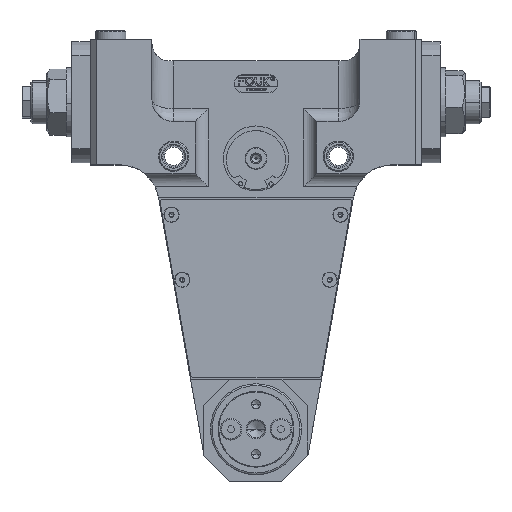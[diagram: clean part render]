
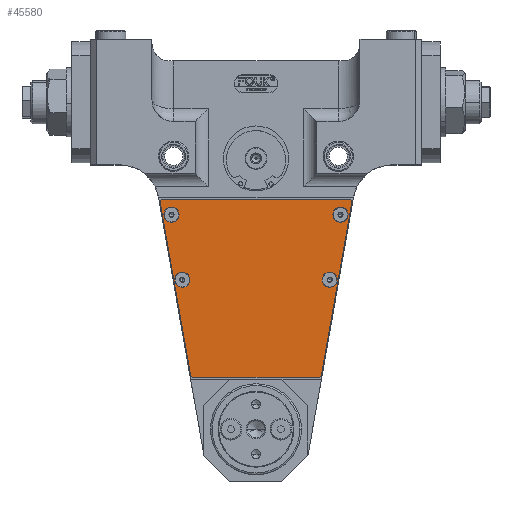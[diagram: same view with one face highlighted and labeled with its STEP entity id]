
A CAD part, top view. The second image highlights one B-rep face of the part: STEP entity #45580.
In plain terms, the highlighted planar face has unit normal (0, 0, 1) as drawn and (0, 1, 0) by its records, which use the part's own axes.
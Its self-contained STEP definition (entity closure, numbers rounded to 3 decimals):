
#167 = DIRECTION ( 'NONE',  ( 0., 0., 1. ) ) ;
#439 = ORIENTED_EDGE ( 'NONE', *, *, #52332, .F. ) ;
#575 = CARTESIAN_POINT ( 'NONE',  ( -34., 2., -45. ) ) ;
#619 = ORIENTED_EDGE ( 'NONE', *, *, #24510, .T. ) ;
#735 = VERTEX_POINT ( 'NONE', #8383 ) ;
#935 = EDGE_LOOP ( 'NONE', ( #10785, #29085 ) ) ;
#1108 = AXIS2_PLACEMENT_3D ( 'NONE', #12830, #38001, #5285 ) ;
#1535 = ORIENTED_EDGE ( 'NONE', *, *, #1803, .T. ) ;
#1704 = AXIS2_PLACEMENT_3D ( 'NONE', #9349, #17596, #21735 ) ;
#1803 = EDGE_CURVE ( 'NONE', #21991, #28406, #28995, .T. ) ;
#2106 = CARTESIAN_POINT ( 'NONE',  ( 34., 2., -45. ) ) ;
#3091 = DIRECTION ( 'NONE',  ( 0., 0., 1. ) ) ;
#3314 = EDGE_LOOP ( 'NONE', ( #18364, #38629 ) ) ;
#3346 = CARTESIAN_POINT ( 'NONE',  ( -34., 2., -48.5 ) ) ;
#3406 = LINE ( 'NONE', #27669, #4695 ) ;
#3735 = AXIS2_PLACEMENT_3D ( 'NONE', #31132, #27204, #35316 ) ;
#4502 = EDGE_CURVE ( 'NONE', #30340, #735, #24314, .T. ) ;
#4520 = CARTESIAN_POINT ( 'NONE',  ( -43.267, 2., -82. ) ) ;
#4695 = VECTOR ( 'NONE', #52191, 1000. ) ;
#5285 = DIRECTION ( 'NONE',  ( 0., 0., 1. ) ) ;
#5320 = EDGE_CURVE ( 'NONE', #12734, #7144, #25579, .T. ) ;
#5488 = CARTESIAN_POINT ( 'NONE',  ( 34., 2., -45. ) ) ;
#5729 = CARTESIAN_POINT ( 'NONE',  ( 44.459, 2., -82. ) ) ;
#5777 = EDGE_CURVE ( 'NONE', #43145, #21991, #46017, .T. ) ;
#5926 = EDGE_CURVE ( 'NONE', #45802, #41325, #35157, .T. ) ;
#5991 = LINE ( 'NONE', #37483, #17568 ) ;
#6210 = FACE_BOUND ( 'NONE', #21456, .T. ) ;
#6222 = ORIENTED_EDGE ( 'NONE', *, *, #23735, .T. ) ;
#7144 = VERTEX_POINT ( 'NONE', #52548 ) ;
#7484 = FACE_BOUND ( 'NONE', #53047, .T. ) ;
#8217 = ORIENTED_EDGE ( 'NONE', *, *, #28347, .T. ) ;
#8274 = DIRECTION ( 'NONE',  ( 0., 0., 1. ) ) ;
#8290 = CIRCLE ( 'NONE', #48245, 3.5 ) ;
#8383 = CARTESIAN_POINT ( 'NONE',  ( -39., 2., -78.5 ) ) ;
#9135 = VERTEX_POINT ( 'NONE', #39538 ) ;
#9252 = AXIS2_PLACEMENT_3D ( 'NONE', #19428, #52260, #3091 ) ;
#9349 = CARTESIAN_POINT ( 'NONE',  ( -34., 2., -45. ) ) ;
#9809 = DIRECTION ( 'NONE',  ( 0.174, 0., -0.985 ) ) ;
#10071 = AXIS2_PLACEMENT_3D ( 'NONE', #5488, #21295, #41961 ) ;
#10119 = DIRECTION ( 'NONE',  ( 0., 0., 1. ) ) ;
#10785 = ORIENTED_EDGE ( 'NONE', *, *, #5320, .F. ) ;
#11189 = CARTESIAN_POINT ( 'NONE',  ( -44.252, 2., -80.826 ) ) ;
#12734 = VERTEX_POINT ( 'NONE', #51132 ) ;
#12830 = CARTESIAN_POINT ( 'NONE',  ( 0., 2., 0. ) ) ;
#13118 = DIRECTION ( 'NONE',  ( 0.174, 0., 0.985 ) ) ;
#13249 = FACE_BOUND ( 'NONE', #3314, .T. ) ;
#14155 = VECTOR ( 'NONE', #13118, 1000. ) ;
#14937 = CARTESIAN_POINT ( 'NONE',  ( -34., 2., -41.5 ) ) ;
#15094 = CARTESIAN_POINT ( 'NONE',  ( 34., 2., -48.5 ) ) ;
#15291 = DIRECTION ( 'NONE',  ( 0., 0., 1. ) ) ;
#16209 = ORIENTED_EDGE ( 'NONE', *, *, #5926, .F. ) ;
#16309 = DIRECTION ( 'NONE',  ( 0., 1., 0. ) ) ;
#16415 = CIRCLE ( 'NONE', #51065, 1. ) ;
#16457 = VERTEX_POINT ( 'NONE', #26619 ) ;
#16638 = CARTESIAN_POINT ( 'NONE',  ( 44.252, 2., -80.826 ) ) ;
#16675 = CARTESIAN_POINT ( 'NONE',  ( -30.146, 2., -0.826 ) ) ;
#16835 = EDGE_CURVE ( 'NONE', #9135, #16457, #3406, .T. ) ;
#17116 = FACE_OUTER_BOUND ( 'NONE', #38415, .T. ) ;
#17568 = VECTOR ( 'NONE', #9809, 1000. ) ;
#17596 = DIRECTION ( 'NONE',  ( 0., 1., 0. ) ) ;
#18262 = CARTESIAN_POINT ( 'NONE',  ( 39., 2., -75. ) ) ;
#18364 = ORIENTED_EDGE ( 'NONE', *, *, #35426, .F. ) ;
#19229 = ORIENTED_EDGE ( 'NONE', *, *, #5777, .T. ) ;
#19428 = CARTESIAN_POINT ( 'NONE',  ( -43.267, 2., -81. ) ) ;
#19518 = CARTESIAN_POINT ( 'NONE',  ( 30.146, 2., -0.826 ) ) ;
#20094 = AXIS2_PLACEMENT_3D ( 'NONE', #20796, #16309, #167 ) ;
#20182 = ORIENTED_EDGE ( 'NONE', *, *, #48091, .F. ) ;
#20796 = CARTESIAN_POINT ( 'NONE',  ( -29.161, 2., -1. ) ) ;
#21295 = DIRECTION ( 'NONE',  ( 0., 1., 0. ) ) ;
#21456 = EDGE_LOOP ( 'NONE', ( #27465, #20182 ) ) ;
#21521 = AXIS2_PLACEMENT_3D ( 'NONE', #575, #28796, #8274 ) ;
#21735 = DIRECTION ( 'NONE',  ( 0., 0., 1. ) ) ;
#21969 = DIRECTION ( 'NONE',  ( 0., 1., 0. ) ) ;
#21991 = VERTEX_POINT ( 'NONE', #11189 ) ;
#22403 = DIRECTION ( 'NONE',  ( 0., 0., 1. ) ) ;
#22695 = DIRECTION ( 'NONE',  ( 0., 1., 0. ) ) ;
#23239 = AXIS2_PLACEMENT_3D ( 'NONE', #2106, #47654, #22403 ) ;
#23735 = EDGE_CURVE ( 'NONE', #16457, #32662, #39636, .T. ) ;
#23942 = EDGE_CURVE ( 'NONE', #24666, #40072, #50518, .T. ) ;
#24283 = CIRCLE ( 'NONE', #10071, 3.5 ) ;
#24314 = CIRCLE ( 'NONE', #32640, 3.5 ) ;
#24510 = EDGE_CURVE ( 'NONE', #37344, #26913, #16415, .T. ) ;
#24666 = VERTEX_POINT ( 'NONE', #15094 ) ;
#25287 = AXIS2_PLACEMENT_3D ( 'NONE', #33319, #41376, #45449 ) ;
#25579 = CIRCLE ( 'NONE', #3735, 3.5 ) ;
#26359 = ORIENTED_EDGE ( 'NONE', *, *, #42004, .T. ) ;
#26573 = DIRECTION ( 'NONE',  ( 0., 0., 1. ) ) ;
#26619 = CARTESIAN_POINT ( 'NONE',  ( 29.161, 2., 0. ) ) ;
#26913 = VERTEX_POINT ( 'NONE', #47688 ) ;
#27204 = DIRECTION ( 'NONE',  ( 0., 1., 0. ) ) ;
#27465 = ORIENTED_EDGE ( 'NONE', *, *, #4502, .F. ) ;
#27669 = CARTESIAN_POINT ( 'NONE',  ( -30., 2., 0. ) ) ;
#27744 = CARTESIAN_POINT ( 'NONE',  ( -39., 2., -75. ) ) ;
#28052 = CARTESIAN_POINT ( 'NONE',  ( 34., 2., -41.5 ) ) ;
#28347 = EDGE_CURVE ( 'NONE', #28406, #9135, #34923, .T. ) ;
#28406 = VERTEX_POINT ( 'NONE', #16675 ) ;
#28796 = DIRECTION ( 'NONE',  ( 0., 1., 0. ) ) ;
#28995 = LINE ( 'NONE', #41706, #14155 ) ;
#29085 = ORIENTED_EDGE ( 'NONE', *, *, #49739, .F. ) ;
#30340 = VERTEX_POINT ( 'NONE', #38595 ) ;
#30963 = DIRECTION ( 'NONE',  ( 0., 0., 1. ) ) ;
#31132 = CARTESIAN_POINT ( 'NONE',  ( 39., 2., -75. ) ) ;
#31192 = DIRECTION ( 'NONE',  ( 0., 1., 0. ) ) ;
#32640 = AXIS2_PLACEMENT_3D ( 'NONE', #27744, #43852, #15291 ) ;
#32662 = VERTEX_POINT ( 'NONE', #19518 ) ;
#33319 = CARTESIAN_POINT ( 'NONE',  ( 29.161, 2., -1. ) ) ;
#33547 = PLANE ( 'NONE',  #1108 ) ;
#33882 = FACE_BOUND ( 'NONE', #935, .T. ) ;
#34923 = CIRCLE ( 'NONE', #20094, 1. ) ;
#35157 = CIRCLE ( 'NONE', #1704, 3.5 ) ;
#35316 = DIRECTION ( 'NONE',  ( 0., 0., 1. ) ) ;
#35426 = EDGE_CURVE ( 'NONE', #40072, #24666, #24283, .T. ) ;
#37344 = VERTEX_POINT ( 'NONE', #16638 ) ;
#37483 = CARTESIAN_POINT ( 'NONE',  ( 30., 2., 0. ) ) ;
#38001 = DIRECTION ( 'NONE',  ( 0., 1., 0. ) ) ;
#38415 = EDGE_LOOP ( 'NONE', ( #26359, #19229, #1535, #8217, #49687, #6222, #43057, #619 ) ) ;
#38595 = CARTESIAN_POINT ( 'NONE',  ( -39., 2., -71.5 ) ) ;
#38629 = ORIENTED_EDGE ( 'NONE', *, *, #23942, .F. ) ;
#38960 = DIRECTION ( 'NONE',  ( -1., 0., 0. ) ) ;
#39013 = EDGE_CURVE ( 'NONE', #32662, #37344, #5991, .T. ) ;
#39538 = CARTESIAN_POINT ( 'NONE',  ( -29.161, 2., 0. ) ) ;
#39636 = CIRCLE ( 'NONE', #25287, 1. ) ;
#40072 = VERTEX_POINT ( 'NONE', #28052 ) ;
#41325 = VERTEX_POINT ( 'NONE', #3346 ) ;
#41376 = DIRECTION ( 'NONE',  ( 0., 1., 0. ) ) ;
#41706 = CARTESIAN_POINT ( 'NONE',  ( -44.459, 2., -82. ) ) ;
#41961 = DIRECTION ( 'NONE',  ( 0., 0., 1. ) ) ;
#42004 = EDGE_CURVE ( 'NONE', #26913, #43145, #44909, .T. ) ;
#42479 = CIRCLE ( 'NONE', #45383, 3.5 ) ;
#43057 = ORIENTED_EDGE ( 'NONE', *, *, #39013, .T. ) ;
#43145 = VERTEX_POINT ( 'NONE', #4520 ) ;
#43852 = DIRECTION ( 'NONE',  ( 0., 1., 0. ) ) ;
#44909 = LINE ( 'NONE', #5729, #48766 ) ;
#45383 = AXIS2_PLACEMENT_3D ( 'NONE', #51399, #22695, #30963 ) ;
#45449 = DIRECTION ( 'NONE',  ( 0., 0., 1. ) ) ;
#45580 = ADVANCED_FACE ( 'NONE', ( #6210, #7484, #13249, #33882, #17116 ), #33547, .T. ) ;
#45802 = VERTEX_POINT ( 'NONE', #14937 ) ;
#46017 = CIRCLE ( 'NONE', #9252, 1. ) ;
#46899 = CARTESIAN_POINT ( 'NONE',  ( 43.267, 2., -81. ) ) ;
#47654 = DIRECTION ( 'NONE',  ( 0., 1., 0. ) ) ;
#47688 = CARTESIAN_POINT ( 'NONE',  ( 43.267, 2., -82. ) ) ;
#48091 = EDGE_CURVE ( 'NONE', #735, #30340, #42479, .T. ) ;
#48245 = AXIS2_PLACEMENT_3D ( 'NONE', #18262, #31192, #26573 ) ;
#48766 = VECTOR ( 'NONE', #38960, 1000. ) ;
#49687 = ORIENTED_EDGE ( 'NONE', *, *, #16835, .T. ) ;
#49739 = EDGE_CURVE ( 'NONE', #7144, #12734, #8290, .T. ) ;
#50518 = CIRCLE ( 'NONE', #23239, 3.5 ) ;
#51065 = AXIS2_PLACEMENT_3D ( 'NONE', #46899, #21969, #10119 ) ;
#51132 = CARTESIAN_POINT ( 'NONE',  ( 39., 2., -71.5 ) ) ;
#51399 = CARTESIAN_POINT ( 'NONE',  ( -39., 2., -75. ) ) ;
#52191 = DIRECTION ( 'NONE',  ( 1., 0., 0. ) ) ;
#52260 = DIRECTION ( 'NONE',  ( 0., 1., 0. ) ) ;
#52332 = EDGE_CURVE ( 'NONE', #41325, #45802, #52377, .T. ) ;
#52377 = CIRCLE ( 'NONE', #21521, 3.5 ) ;
#52548 = CARTESIAN_POINT ( 'NONE',  ( 39., 2., -78.5 ) ) ;
#53047 = EDGE_LOOP ( 'NONE', ( #16209, #439 ) ) ;
